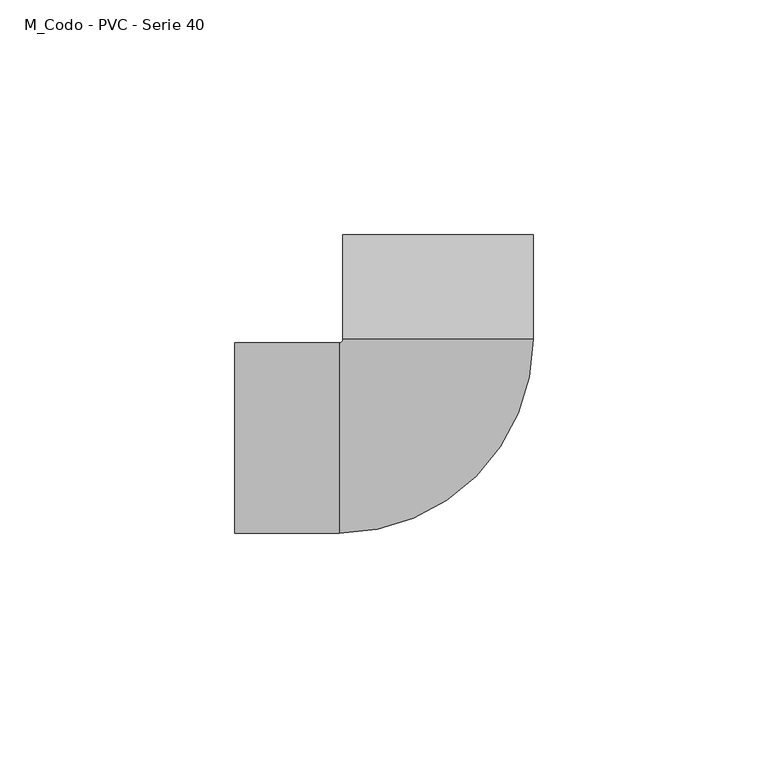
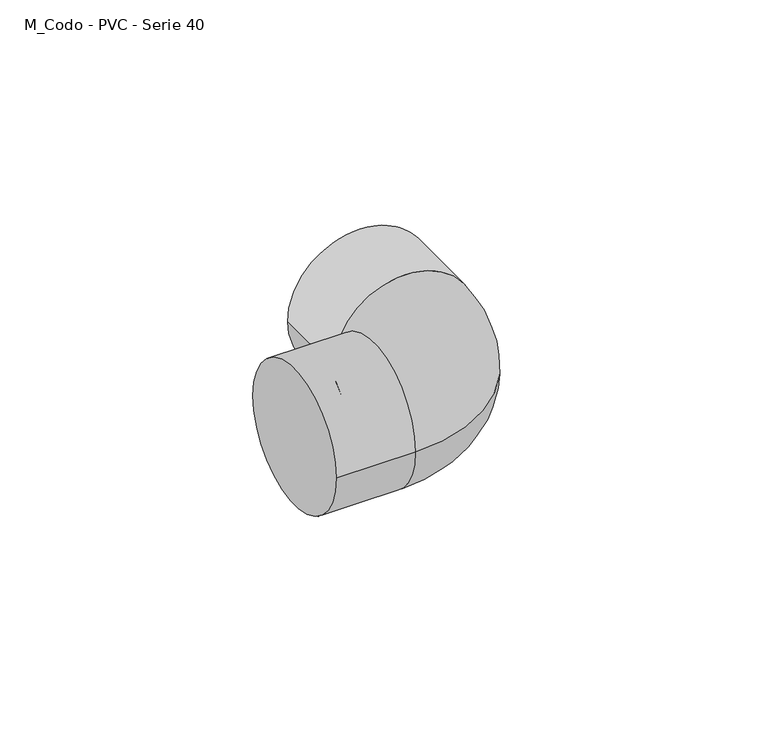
"""IFC4 building model written with IfcOpenShell, lengths in millimetres: pipe fitting geometry, M_Codo - PVC - Serie 40 : Estándar."""

from ifc_helpers import new_model, si_unit, point, frame, origin, place, context, project, spatial, circle_curve, ellipse_curve, trimmed, source, transform, mapped, element, save
from ifc_brep_helpers import plane_surface, cylinder_surface, revolved_surface, advanced_brep


def m_codo_pvc_serie_40_16f65888(model_context):
    return source(origin(), model_context, "Body", "AdvancedBrep", [
        advanced_brep(
        [(-43.2632406, -20.2438, 0.0), (-43.2632406, 20.2438, 0.0), (-21.0382406, -20.2438, 0.0), (-21.0382406, 20.2438, 0.0), (-20.2444906, 21.0375761, 0.0), (20.2431093, 21.0389052, 0.0), (20.2423797, 43.2639052, 0.0), (-20.2452203, 43.262576, 0.0)],
        [
            (0, 1, circle_curve(frame((-43.2632406, 0.0, 0.0), z_axis=(-1.0, 0.0, 0.0), x_axis=(0.0, 1.0, 0.0)), 20.2438)),
            (1, 0, circle_curve(frame((-43.2632406, 0.0, 0.0), z_axis=(-1.0, 0.0, 0.0), x_axis=(0.0, 1.0, 0.0)), 20.2438)),
            (0, 2),
            (2, 3, circle_curve(frame((-21.0382406, 0.0, 0.0), z_axis=(-1.0, 0.0, 0.0), x_axis=(0.0, 1.0, 0.0)), 20.2438)),
            (3, 1),
            (3, 2, circle_curve(frame((-21.0382406, 0.0, 0.0), z_axis=(-1.0, 0.0, 0.0), x_axis=(0.0, 1.0, 0.0)), 20.2438)),
            (4, 3, circle_curve(frame((-21.0382406, 21.03755, 0.0), z_axis=(0.0, 0.0, -1.0), x_axis=(0.0, -1.0, 0.0)), 0.79375)),
            (2, 5, circle_curve(frame((-21.0382406, 21.03755, 0.0), z_axis=(0.0, 0.0, 1.0), x_axis=(0.0, -1.0, 0.0)), 41.28135)),
            (5, 4, circle_curve(frame((-0.0006907, 21.0382406, 0.0), z_axis=(3.2828802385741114e-05, -0.9999999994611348, 0.0), x_axis=(-0.9999999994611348, -3.2828802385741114e-05, 0.0)), 20.2438)),
            (4, 5, circle_curve(frame((-0.0006907, 21.0382406, 0.0), z_axis=(3.282880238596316e-05, -0.9999999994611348, 0.0), x_axis=(-0.9999999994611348, -3.282880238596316e-05, 0.0)), 20.2438)),
            (6, 7, circle_curve(frame((-0.0014203, 43.2632406, 0.0), z_axis=(-3.2828802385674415e-05, 0.9999999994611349, 0.0), x_axis=(-0.9999999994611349, -3.2828802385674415e-05, 0.0)), 20.2438)),
            (7, 6, circle_curve(frame((-0.0014203, 43.2632406, 0.0), z_axis=(-3.2828802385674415e-05, 0.9999999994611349, 0.0), x_axis=(-0.9999999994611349, -3.2828802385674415e-05, 0.0)), 20.2438)),
            (5, 6),
            (7, 4),
        ],
        [
            plane_surface(frame((-43.2632406, 0.0, 0.0), z_axis=(-1.0, 0.0, 0.0), x_axis=(0.0, 0.0, 1.0))),
            cylinder_surface(frame((-43.2632406, 0.0, 0.0), z_axis=(-1.0, 0.0, 0.0), x_axis=(0.0, 1.0, 0.0)), 20.2438),
            revolved_surface(trimmed(ellipse_curve(frame((-21.0382406, 0.0, 0.0), z_axis=(-1.0, 0.0, 0.0), x_axis=(0.0, 1.0, 0.0)), 20.2438, 20.2438), [point((-21.0382406, -20.2438, 0.0))], [point((-21.0382406, 20.2438, 0.0))], True, "CARTESIAN"), (-21.0382406, 21.03755, 0.0), (0.0, 0.0, 1.0)),
            revolved_surface(trimmed(ellipse_curve(frame((-21.0382406, 0.0, 0.0), z_axis=(-1.0, 0.0, 0.0), x_axis=(0.0, 1.0, 0.0)), 20.2438, 20.2438), [point((-21.0382406, 20.2438, 0.0))], [point((-21.0382406, -20.2438, 0.0))], True, "CARTESIAN"), (-21.0382406, 21.03755, 0.0), (0.0, 0.0, 1.0)),
            plane_surface(frame((-0.0014203, 43.2632406, 0.0), z_axis=(-3.282880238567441e-05, 0.9999999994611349, 0.0), x_axis=(0.0, 0.0, 1.0))),
            cylinder_surface(frame((-0.0006907, 21.0382406, 0.0), z_axis=(3.2828802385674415e-05, -0.9999999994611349, 0.0), x_axis=(-0.9999999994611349, -3.2828802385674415e-05, 0.0)), 20.2438),
        ],
        [
            (0, [[1, 2]]),
            (1, [[-1, 3, 4, 5]]),
            (1, [[-2, -5, 6, -3]]),
            (2, [[7, -4, 8, 9]]),
            (3, [[-8, -6, -7, 10]]),
            (4, [[11, 12]]),
            (5, [[-9, 13, -12, 14]]),
            (5, [[-10, -14, -11, -13]]),
        ],
    ),
    ])


if __name__ == "__main__":
    model = new_model("IFC4")
    model_context = context("Model", 3, world=origin())
    ifc_project = project(units=[si_unit("LENGTHUNIT", "METRE", prefix="MILLI")], contexts=[model_context])
    site = spatial("IfcSite", under=ifc_project)
    building = spatial("IfcBuilding", under=site)
    placement = place(None, origin())
    m_codo_pvc_serie_40_shape = m_codo_pvc_serie_40_16f65888(model_context)
    element("IfcPipeFitting", 1, ObjectType="M_Codo - PVC - Serie 40 : Estándar", at=placement, inside=building, context=model_context, shape_type="MappedRepresentation", body=[
        mapped(m_codo_pvc_serie_40_shape, transform((0.0, 0.0, 0.0), x_axis=(1.0, 0.0, 0.0), y_axis=(0.0, 1.0, 0.0), z_axis=(0.0, 0.0, 1.0))),
    ])
    save(model, "model.ifc")
